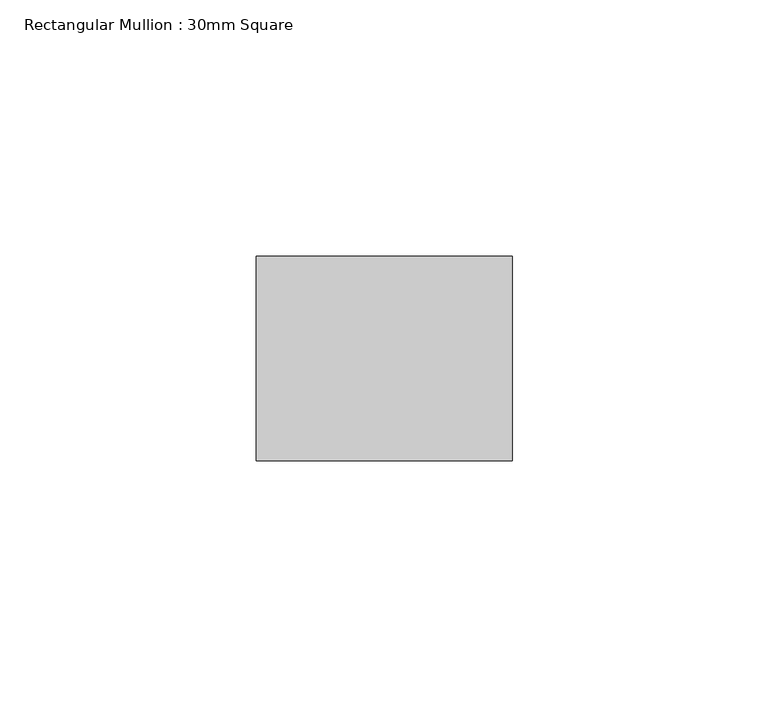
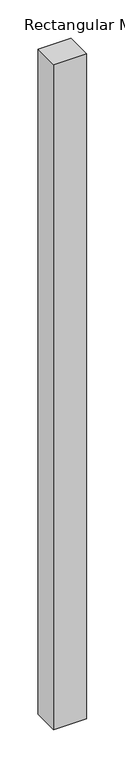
"""IFC4 building model written with IfcOpenShell, lengths in millimetres: member geometry, Rectangular Mullion : 30mm Square."""

from ifc_helpers import new_model, si_unit, frame, origin, place, context, project, spatial, polyline, outline, extrude, source, transform, mapped, element, save


def rectangular_mullion_30mm_square_75aafb43(model_context):
    return source(origin(), model_context, "Body", "SweptSolid", [
        extrude(outline(polyline([(25.0, 20.0), (25.0, -20.0), (-25.0, -20.0), (-25.0, 20.0), (25.0, 20.0)])), frame((0.0, 0.0, -1060.0), z_axis=(0.0, 0.0, 1.0), x_axis=(1.0, 0.0, 0.0)), (0.0, 0.0, 1.0), 1060.0),
    ])


if __name__ == "__main__":
    model = new_model("IFC4")
    model_context = context("Model", 3, world=origin())
    ifc_project = project(units=[si_unit("LENGTHUNIT", "METRE", prefix="MILLI")], contexts=[model_context])
    site = spatial("IfcSite", under=ifc_project)
    building = spatial("IfcBuilding", under=site)
    placement = place(None, origin())
    rectangular_mullion_30mm_square_shape = rectangular_mullion_30mm_square_75aafb43(model_context)
    element("IfcMember", 1, ObjectType="Rectangular Mullion : 30mm Square", at=placement, inside=building, context=model_context, shape_type="MappedRepresentation", body=[
        mapped(rectangular_mullion_30mm_square_shape, transform((0.0, 0.0, 0.0), x_axis=(1.0, 0.0, 0.0), y_axis=(0.0, 1.0, 0.0), z_axis=(0.0, 0.0, 1.0))),
    ])
    save(model, "model.ifc")
